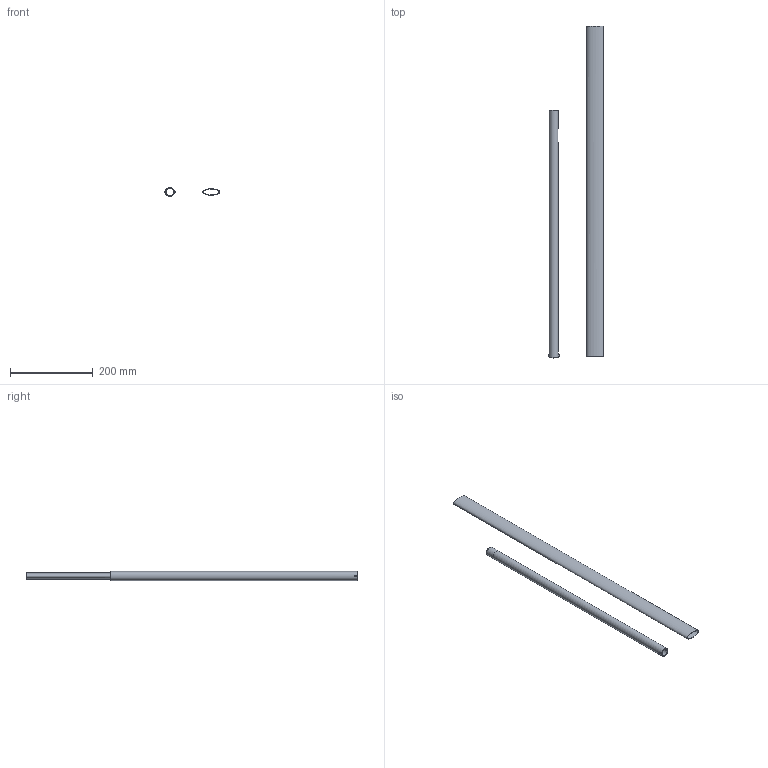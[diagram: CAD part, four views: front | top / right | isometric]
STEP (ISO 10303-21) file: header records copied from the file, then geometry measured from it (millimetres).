
FILE_DESCRIPTION(/* description */ (''),/* implementation_level */ '2;1');
FILE_NAME(/* name */ 'S:\UFFICIO TECNICO 2019\PRODOTTI ROTALIANA\SOUVLAKI\FILES 3D STEP_tutti componenti souvlaki\KSVTA.stp',/* time_stamp */ '2024-03-13T16:41:41+01:00',/* author */ ('mtesta'),/* organization */ (''),/* preprocessor_version */ 'ST-DEVELOPER v18.1',/* originating_system */ 'Autodesk Inventor 2021',/* authorisation */ '');
FILE_SCHEMA (('AUTOMOTIVE_DESIGN { 1 0 10303 214 3 1 1 }'));
Length unit declared in the file: millimetre
Products named in the file (4): A05776; C0916; I05592; D09465
Assembly tree (4 placements, depth 2):
  A05776
    C0916  x2
    I05592
    D09465
Bounding box: 132.98 x 804.06 x 22 mm (x, y, z)
Volume: 135790.1 mm3; surface area: 217507.5 mm2
Topology: 4 solids, 4 shells, 42 faces, 99 edges, 65 vertices
Faces by surface type: plane 24, cylinder 9, cone 7, bspline 2
Full cylindrical faces by diameter (mm): 2.459 x2, 3 x2, 18 x1, 18.376 x1, 22 x1
Entity records: 1599 total; most frequent: CARTESIAN_POINT 709, ORIENTED_EDGE 148, DIRECTION 147, EDGE_CURVE 74, AXIS2_PLACEMENT_3D 53, VERTEX_POINT 49, LINE 41, VECTOR 41
